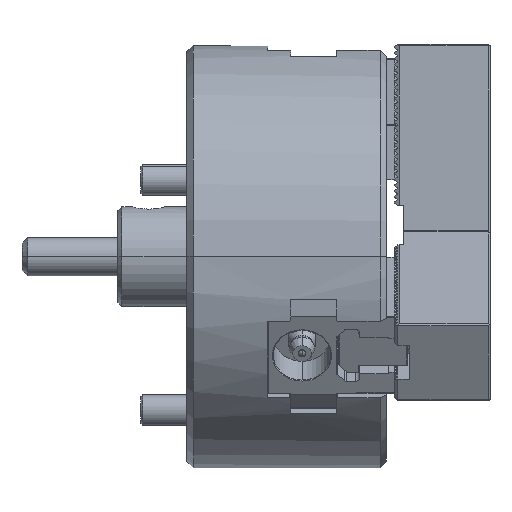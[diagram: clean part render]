
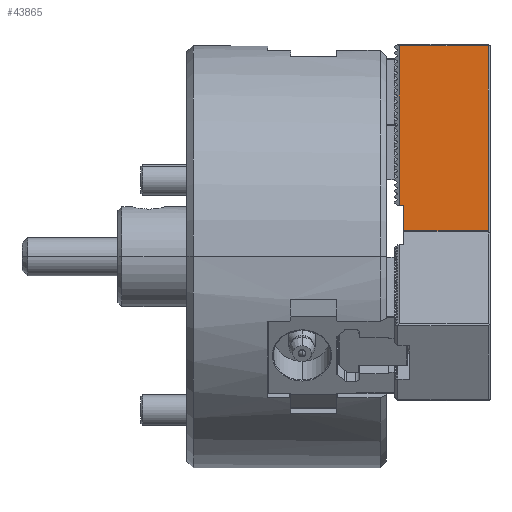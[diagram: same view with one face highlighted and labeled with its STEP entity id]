
A CAD part, top view. The second image highlights one B-rep face of the part: STEP entity #43865.
In plain terms, the highlighted planar face has unit normal (0, 0, 1).
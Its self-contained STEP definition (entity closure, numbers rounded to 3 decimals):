
#1739 = ORIENTED_EDGE ( 'NONE', *, *, #39600, .F. ) ;
#3106 = ORIENTED_EDGE ( 'NONE', *, *, #49285, .T. ) ;
#6503 = FACE_OUTER_BOUND ( 'NONE', #41332, .T. ) ;
#6845 = DIRECTION ( 'NONE',  ( -1., 0., 0. ) ) ;
#7659 = CARTESIAN_POINT ( 'NONE',  ( 25., 6.174, 11.5 ) ) ;
#9126 = CARTESIAN_POINT ( 'NONE',  ( 2.5, 13., 11.5 ) ) ;
#9407 = CARTESIAN_POINT ( 'NONE',  ( 25., 54.6, 11.5 ) ) ;
#10219 = VERTEX_POINT ( 'NONE', #69432 ) ;
#13107 = EDGE_CURVE ( 'NONE', #33756, #10219, #30429, .T. ) ;
#14326 = CARTESIAN_POINT ( 'NONE',  ( 1.4, 13., 11.5 ) ) ;
#14758 = AXIS2_PLACEMENT_3D ( 'NONE', #7659, #49422, #37631 ) ;
#19520 = CARTESIAN_POINT ( 'NONE',  ( 24.6, 6.174, 11.5 ) ) ;
#19603 = VERTEX_POINT ( 'NONE', #19520 ) ;
#20073 = DIRECTION ( 'NONE',  ( -1., 0., 0. ) ) ;
#20856 = LINE ( 'NONE', #45673, #37543 ) ;
#24113 = VERTEX_POINT ( 'NONE', #49888 ) ;
#25628 = VECTOR ( 'NONE', #46170, 1000. ) ;
#29629 = ORIENTED_EDGE ( 'NONE', *, *, #70969, .T. ) ;
#30134 = VECTOR ( 'NONE', #68118, 1000. ) ;
#30429 = LINE ( 'NONE', #66321, #43940 ) ;
#33756 = VERTEX_POINT ( 'NONE', #76127 ) ;
#33962 = LINE ( 'NONE', #9126, #25628 ) ;
#34207 = VECTOR ( 'NONE', #20073, 1000. ) ;
#37543 = VECTOR ( 'NONE', #69748, 1000. ) ;
#37631 = DIRECTION ( 'NONE',  ( 0., 1., 0. ) ) ;
#38912 = LINE ( 'NONE', #74822, #30134 ) ;
#39600 = EDGE_CURVE ( 'NONE', #19603, #33756, #77853, .T. ) ;
#40401 = ORIENTED_EDGE ( 'NONE', *, *, #43385, .T. ) ;
#41332 = EDGE_LOOP ( 'NONE', ( #1739, #29629, #3106, #40401, #56235, #46455 ) ) ;
#43385 = EDGE_CURVE ( 'NONE', #62741, #52624, #20856, .T. ) ;
#43515 = PLANE ( 'NONE',  #14758 ) ;
#43865 = ADVANCED_FACE ( 'NONE', ( #6503 ), #43515, .F. ) ;
#43940 = VECTOR ( 'NONE', #48924, 1000. ) ;
#45673 = CARTESIAN_POINT ( 'NONE',  ( 1.4, 55., 11.5 ) ) ;
#46170 = DIRECTION ( 'NONE',  ( -1., 0., 0. ) ) ;
#46455 = ORIENTED_EDGE ( 'NONE', *, *, #13107, .F. ) ;
#48924 = DIRECTION ( 'NONE',  ( 0., 1., 0. ) ) ;
#49285 = EDGE_CURVE ( 'NONE', #24113, #62741, #57479, .T. ) ;
#49422 = DIRECTION ( 'NONE',  ( 0., 0., -1. ) ) ;
#49888 = CARTESIAN_POINT ( 'NONE',  ( 24.6, 54.6, 11.5 ) ) ;
#51021 = VECTOR ( 'NONE', #6845, 1000. ) ;
#52624 = VERTEX_POINT ( 'NONE', #14326 ) ;
#56235 = ORIENTED_EDGE ( 'NONE', *, *, #77582, .F. ) ;
#57479 = LINE ( 'NONE', #9407, #34207 ) ;
#62741 = VERTEX_POINT ( 'NONE', #77311 ) ;
#66015 = CARTESIAN_POINT ( 'NONE',  ( 25., 6.174, 11.5 ) ) ;
#66321 = CARTESIAN_POINT ( 'NONE',  ( 2.5, 0., 11.5 ) ) ;
#68118 = DIRECTION ( 'NONE',  ( 0., 1., 0. ) ) ;
#69432 = CARTESIAN_POINT ( 'NONE',  ( 2.5, 13., 11.5 ) ) ;
#69748 = DIRECTION ( 'NONE',  ( 0., -1., 0. ) ) ;
#70969 = EDGE_CURVE ( 'NONE', #19603, #24113, #38912, .T. ) ;
#74822 = CARTESIAN_POINT ( 'NONE',  ( 24.6, 6.174, 11.5 ) ) ;
#76127 = CARTESIAN_POINT ( 'NONE',  ( 2.5, 6.174, 11.5 ) ) ;
#77311 = CARTESIAN_POINT ( 'NONE',  ( 1.4, 54.6, 11.5 ) ) ;
#77582 = EDGE_CURVE ( 'NONE', #10219, #52624, #33962, .T. ) ;
#77853 = LINE ( 'NONE', #66015, #51021 ) ;
